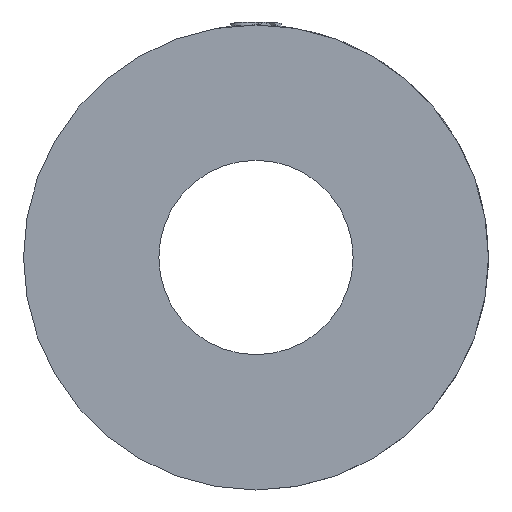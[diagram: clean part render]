
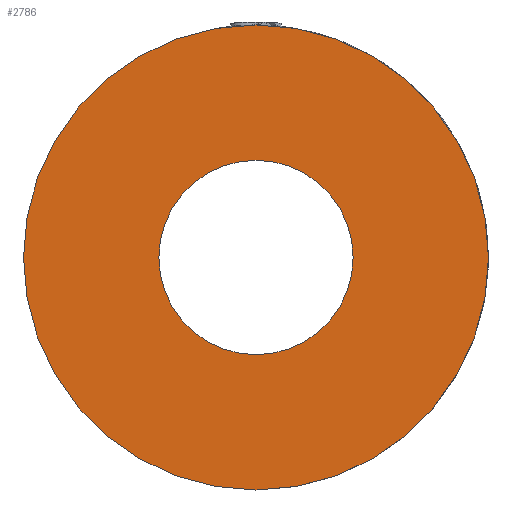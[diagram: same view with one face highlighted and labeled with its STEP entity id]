
A CAD part, left-side view. The second image highlights one B-rep face of the part: STEP entity #2786.
In plain terms, the highlighted planar face has unit normal (-1, 0, 0).
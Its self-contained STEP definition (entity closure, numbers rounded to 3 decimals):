
#92 = CARTESIAN_POINT ( 'NONE',  ( 0., 0., 16.3 ) ) ;
#184 = AXIS2_PLACEMENT_3D ( 'NONE', #2993, #2926, #2874 ) ;
#363 = CARTESIAN_POINT ( 'NONE',  ( 0., 0., -16.3 ) ) ;
#416 = ORIENTED_EDGE ( 'NONE', *, *, #1530, .F. ) ;
#419 = ORIENTED_EDGE ( 'NONE', *, *, #1095, .F. ) ;
#653 = CARTESIAN_POINT ( 'NONE',  ( 0., 0., -39. ) ) ;
#655 = DIRECTION ( 'NONE',  ( 0., 0., -1. ) ) ;
#665 = DIRECTION ( 'NONE',  ( 1., 0., 0. ) ) ;
#686 = CARTESIAN_POINT ( 'NONE',  ( 0., 16.3, 0. ) ) ;
#709 = AXIS2_PLACEMENT_3D ( 'NONE', #931, #918, #897 ) ;
#756 = AXIS2_PLACEMENT_3D ( 'NONE', #1036, #1025, #1021 ) ;
#782 = AXIS2_PLACEMENT_3D ( 'NONE', #1242, #1231, #1222 ) ;
#851 = AXIS2_PLACEMENT_3D ( 'NONE', #686, #665, #655 ) ;
#864 = PLANE ( 'NONE',  #851 ) ;
#897 = DIRECTION ( 'NONE',  ( 0., 0., 1. ) ) ;
#918 = DIRECTION ( 'NONE',  ( -1., 0., 0. ) ) ;
#923 = FACE_OUTER_BOUND ( 'NONE', #1733, .T. ) ;
#931 = CARTESIAN_POINT ( 'NONE',  ( 0., 0., 0. ) ) ;
#1021 = DIRECTION ( 'NONE',  ( 0., 0., 1. ) ) ;
#1025 = DIRECTION ( 'NONE',  ( -1., 0., 0. ) ) ;
#1032 = FACE_BOUND ( 'NONE', #1102, .T. ) ;
#1036 = CARTESIAN_POINT ( 'NONE',  ( 0., 0., 0. ) ) ;
#1095 = EDGE_CURVE ( 'NONE', #2333, #2234, #1974, .T. ) ;
#1102 = EDGE_LOOP ( 'NONE', ( #419, #416 ) ) ;
#1114 = EDGE_CURVE ( 'NONE', #1832, #1623, #2018, .T. ) ;
#1167 = EDGE_CURVE ( 'NONE', #1623, #1832, #2092, .T. ) ;
#1222 = DIRECTION ( 'NONE',  ( 0., 0., 1. ) ) ;
#1231 = DIRECTION ( 'NONE',  ( -1., 0., 0. ) ) ;
#1242 = CARTESIAN_POINT ( 'NONE',  ( 0., 0., 0. ) ) ;
#1530 = EDGE_CURVE ( 'NONE', #2234, #2333, #2202, .T. ) ;
#1623 = VERTEX_POINT ( 'NONE', #2042 ) ;
#1733 = EDGE_LOOP ( 'NONE', ( #2132, #2648 ) ) ;
#1832 = VERTEX_POINT ( 'NONE', #653 ) ;
#1974 = CIRCLE ( 'NONE', #782, 16.3 ) ;
#2018 = CIRCLE ( 'NONE', #756, 39. ) ;
#2042 = CARTESIAN_POINT ( 'NONE',  ( 0., 0., 39. ) ) ;
#2092 = CIRCLE ( 'NONE', #709, 39. ) ;
#2132 = ORIENTED_EDGE ( 'NONE', *, *, #1167, .T. ) ;
#2202 = CIRCLE ( 'NONE', #184, 16.3 ) ;
#2234 = VERTEX_POINT ( 'NONE', #363 ) ;
#2333 = VERTEX_POINT ( 'NONE', #92 ) ;
#2648 = ORIENTED_EDGE ( 'NONE', *, *, #1114, .T. ) ;
#2786 = ADVANCED_FACE ( 'NONE', ( #1032, #923 ), #864, .F. ) ;
#2874 = DIRECTION ( 'NONE',  ( 0., 0., 1. ) ) ;
#2926 = DIRECTION ( 'NONE',  ( -1., 0., 0. ) ) ;
#2993 = CARTESIAN_POINT ( 'NONE',  ( 0., 0., 0. ) ) ;
